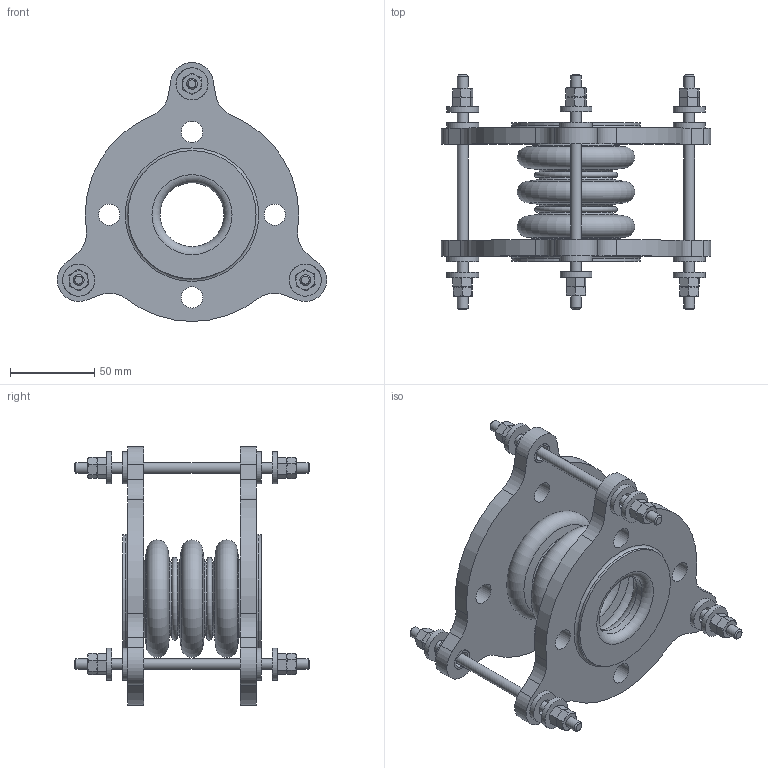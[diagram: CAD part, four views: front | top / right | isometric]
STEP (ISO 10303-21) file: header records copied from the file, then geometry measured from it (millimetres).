
FILE_DESCRIPTION(/* description */ (''),/* implementation_level */ '2;1');
FILE_NAME(/* name */ 'C:\Users\rramoutar\Desktop\803\803 1.5IDx3.25FF.stp',/* time_stamp */ '2016-04-24T17:47:49-04:00',/* author */ ('rramoutar'),/* organization */ ('Mason Industries Inc.'),/* preprocessor_version */ 'ST-DEVELOPER v15.6',/* originating_system */ 'Autodesk Inventor 2015',/* authorisation */ '');
FILE_SCHEMA (('CONFIG_CONTROL_DESIGN'));
Length unit declared in the file: inch
Products named in the file (1): 803 1.5IDx3.25FF
Bounding box: 160.13 x 139.7 x 153.99 mm (x, y, z)
Volume: 321456.2 mm3; surface area: 138737.4 mm2
Topology: 6 solids, 12 shells, 443 faces, 952 edges, 565 vertices
Faces by surface type: cone 186, plane 140, cylinder 91, torus 26
Full cylindrical faces by diameter (mm): 6.35 x15, 7.938 x6, 9.922 x6, 12.303 x6, 12.7 x14, 19.05 x12, 38.1 x2, 41.275 x2, 42.862 x2, 76.2 x2
Entity records: 10902 total; most frequent: CARTESIAN_POINT 2346, DIRECTION 1760, ORIENTED_EDGE 1580, AXIS2_PLACEMENT_3D 814, EDGE_CURVE 790, EDGE_LOOP 654, VERTEX_POINT 536, FACE_OUTER_BOUND 443
